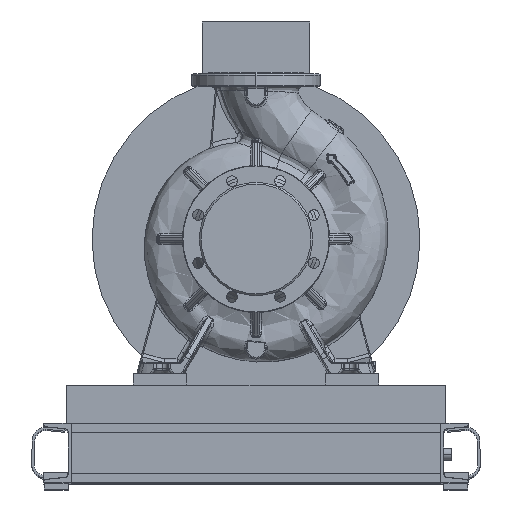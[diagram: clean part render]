
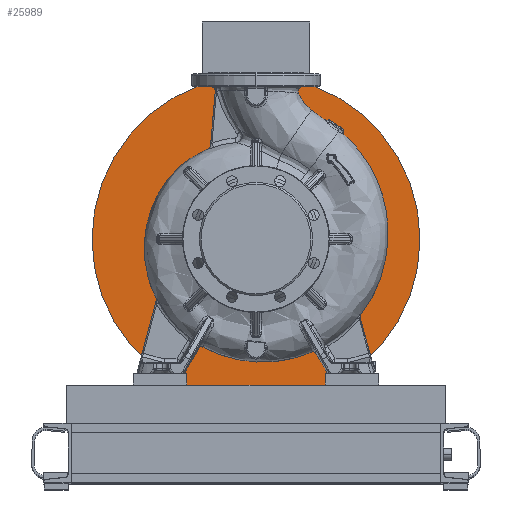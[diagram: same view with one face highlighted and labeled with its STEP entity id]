
A CAD part, top view. The second image highlights one B-rep face of the part: STEP entity #25989.
In plain terms, the highlighted planar face has unit normal (0, 0, 1).
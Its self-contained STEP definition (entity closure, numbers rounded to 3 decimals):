
#1630 = DIRECTION ( 'NONE',  ( 0., 0., 1. ) ) ;
#5056 = DIRECTION ( 'NONE',  ( 1., 0., 0. ) ) ;
#6891 = EDGE_CURVE ( 'NONE', #88145, #60090, #28733, .T. ) ;
#7928 = CIRCLE ( 'NONE', #81820, 125. ) ;
#7992 = CARTESIAN_POINT ( 'NONE',  ( 0., 0., -274.8 ) ) ;
#9293 = DIRECTION ( 'NONE',  ( 0., 0., 1. ) ) ;
#14086 = EDGE_LOOP ( 'NONE', ( #23604, #83686 ) ) ;
#21436 = AXIS2_PLACEMENT_3D ( 'NONE', #7992, #9293, #45611 ) ;
#23548 = CARTESIAN_POINT ( 'NONE',  ( -125., 0., -274.8 ) ) ;
#23561 = EDGE_LOOP ( 'NONE', ( #39021, #30735 ) ) ;
#23604 = ORIENTED_EDGE ( 'NONE', *, *, #37228, .F. ) ;
#25989 = ADVANCED_FACE ( 'NONE', ( #55881, #81895 ), #87409, .F. ) ;
#26523 = DIRECTION ( 'NONE',  ( 0., 0., 1. ) ) ;
#28733 = CIRCLE ( 'NONE', #21436, 275. ) ;
#30556 = AXIS2_PLACEMENT_3D ( 'NONE', #76395, #69165, #31066 ) ;
#30735 = ORIENTED_EDGE ( 'NONE', *, *, #6891, .T. ) ;
#30981 = DIRECTION ( 'NONE',  ( 1., 0., 0. ) ) ;
#31066 = DIRECTION ( 'NONE',  ( -1., 0., 0. ) ) ;
#36572 = CARTESIAN_POINT ( 'NONE',  ( 0., 0., -274.8 ) ) ;
#37226 = DIRECTION ( 'NONE',  ( 1., 0., 0. ) ) ;
#37228 = EDGE_CURVE ( 'NONE', #92265, #91100, #7928, .T. ) ;
#39021 = ORIENTED_EDGE ( 'NONE', *, *, #83430, .T. ) ;
#40622 = CIRCLE ( 'NONE', #42187, 275. ) ;
#42187 = AXIS2_PLACEMENT_3D ( 'NONE', #50312, #26523, #5056 ) ;
#45611 = DIRECTION ( 'NONE',  ( 1., 0., 0. ) ) ;
#50312 = CARTESIAN_POINT ( 'NONE',  ( 0., 0., -274.8 ) ) ;
#54433 = CARTESIAN_POINT ( 'NONE',  ( 0., 0., -274.8 ) ) ;
#55881 = FACE_BOUND ( 'NONE', #14086, .T. ) ;
#58164 = AXIS2_PLACEMENT_3D ( 'NONE', #36572, #82536, #37226 ) ;
#60090 = VERTEX_POINT ( 'NONE', #88779 ) ;
#63368 = CIRCLE ( 'NONE', #58164, 125. ) ;
#69165 = DIRECTION ( 'NONE',  ( 0., 0., -1. ) ) ;
#71011 = EDGE_CURVE ( 'NONE', #91100, #92265, #63368, .T. ) ;
#76395 = CARTESIAN_POINT ( 'NONE',  ( 0., 125., -274.8 ) ) ;
#81820 = AXIS2_PLACEMENT_3D ( 'NONE', #54433, #1630, #30981 ) ;
#81895 = FACE_OUTER_BOUND ( 'NONE', #23561, .T. ) ;
#82536 = DIRECTION ( 'NONE',  ( 0., 0., 1. ) ) ;
#83430 = EDGE_CURVE ( 'NONE', #60090, #88145, #40622, .T. ) ;
#83686 = ORIENTED_EDGE ( 'NONE', *, *, #71011, .F. ) ;
#83709 = CARTESIAN_POINT ( 'NONE',  ( 125., 0., -274.8 ) ) ;
#84042 = CARTESIAN_POINT ( 'NONE',  ( -275., 0., -274.8 ) ) ;
#87409 = PLANE ( 'NONE',  #30556 ) ;
#88145 = VERTEX_POINT ( 'NONE', #84042 ) ;
#88779 = CARTESIAN_POINT ( 'NONE',  ( 275., 0., -274.8 ) ) ;
#91100 = VERTEX_POINT ( 'NONE', #23548 ) ;
#92265 = VERTEX_POINT ( 'NONE', #83709 ) ;
